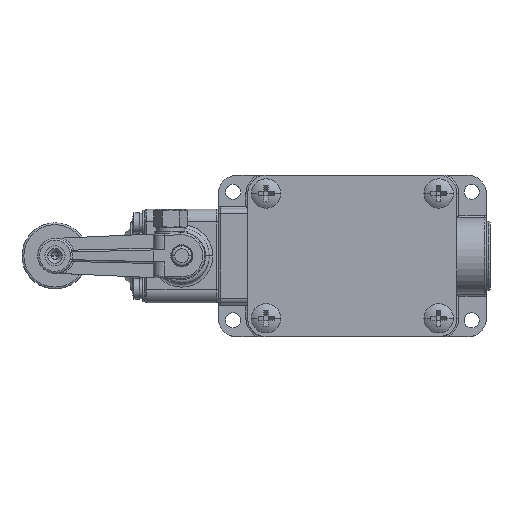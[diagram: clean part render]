
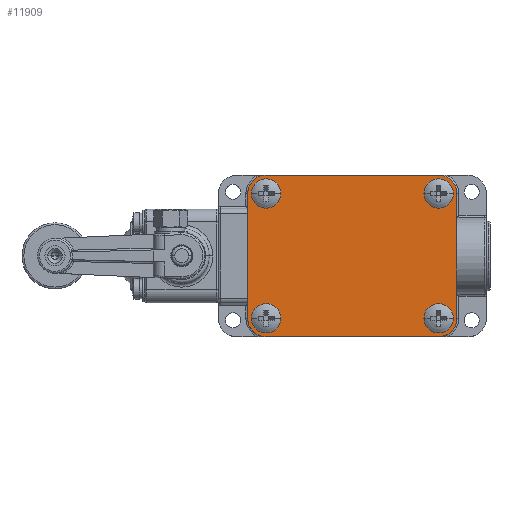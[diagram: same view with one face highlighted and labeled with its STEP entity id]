
A CAD part, top view. The second image highlights one B-rep face of the part: STEP entity #11909.
In plain terms, the highlighted planar face has unit normal (0, 0, 1).
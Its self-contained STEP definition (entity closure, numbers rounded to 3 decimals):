
#2839=DIRECTION('',(1.,0.,0.));
#2840=VECTOR('',#2839,47.);
#2841=CARTESIAN_POINT('',(-23.5,-22.,27.8));
#2842=LINE('',#2841,#2840);
#2863=CARTESIAN_POINT('',(-23.5,-17.,27.8));
#2864=DIRECTION('',(0.,0.,-1.));
#2865=DIRECTION('',(-1.,0.,0.));
#2866=AXIS2_PLACEMENT_3D('',#2863,#2864,#2865);
#2868=CARTESIAN_POINT('',(-23.5,-17.,27.8));
#2869=DIRECTION('',(0.,0.,-1.));
#2870=DIRECTION('',(1.,0.,0.));
#2871=AXIS2_PLACEMENT_3D('',#2868,#2869,#2870);
#2873=CARTESIAN_POINT('',(-23.5,17.,27.8));
#2874=DIRECTION('',(0.,0.,-1.));
#2875=DIRECTION('',(-1.,0.,0.));
#2876=AXIS2_PLACEMENT_3D('',#2873,#2874,#2875);
#2878=CARTESIAN_POINT('',(-23.5,17.,27.8));
#2879=DIRECTION('',(0.,0.,-1.));
#2880=DIRECTION('',(1.,0.,0.));
#2881=AXIS2_PLACEMENT_3D('',#2878,#2879,#2880);
#2883=CARTESIAN_POINT('',(23.5,-17.,27.8));
#2884=DIRECTION('',(0.,0.,-1.));
#2885=DIRECTION('',(-1.,0.,0.));
#2886=AXIS2_PLACEMENT_3D('',#2883,#2884,#2885);
#2888=CARTESIAN_POINT('',(23.5,-17.,27.8));
#2889=DIRECTION('',(0.,0.,-1.));
#2890=DIRECTION('',(1.,0.,0.));
#2891=AXIS2_PLACEMENT_3D('',#2888,#2889,#2890);
#2893=CARTESIAN_POINT('',(23.5,17.,27.8));
#2894=DIRECTION('',(0.,0.,-1.));
#2895=DIRECTION('',(-1.,0.,0.));
#2896=AXIS2_PLACEMENT_3D('',#2893,#2894,#2895);
#2898=CARTESIAN_POINT('',(23.5,17.,27.8));
#2899=DIRECTION('',(0.,0.,-1.));
#2900=DIRECTION('',(1.,0.,0.));
#2901=AXIS2_PLACEMENT_3D('',#2898,#2899,#2900);
#2903=CARTESIAN_POINT('',(23.5,-17.,27.8));
#2904=DIRECTION('',(0.,0.,1.));
#2905=DIRECTION('',(0.,-1.,0.));
#2906=AXIS2_PLACEMENT_3D('',#2903,#2904,#2905);
#2908=CARTESIAN_POINT('',(-23.5,-17.,27.8));
#2909=DIRECTION('',(0.,0.,1.));
#2910=DIRECTION('',(-1.,0.,0.));
#2911=AXIS2_PLACEMENT_3D('',#2908,#2909,#2910);
#2913=CARTESIAN_POINT('',(-23.5,17.,27.8));
#2914=DIRECTION('',(0.,0.,1.));
#2915=DIRECTION('',(0.,1.,0.));
#2916=AXIS2_PLACEMENT_3D('',#2913,#2914,#2915);
#2918=CARTESIAN_POINT('',(23.5,17.,27.8));
#2919=DIRECTION('',(0.,0.,1.));
#2920=DIRECTION('',(1.,0.,0.));
#2921=AXIS2_PLACEMENT_3D('',#2918,#2919,#2920);
#3699=DIRECTION('',(0.,1.,0.));
#3700=VECTOR('',#3699,34.);
#3701=CARTESIAN_POINT('',(28.5,-17.,27.8));
#3702=LINE('',#3701,#3700);
#3737=DIRECTION('',(-1.,0.,0.));
#3738=VECTOR('',#3737,47.);
#3739=CARTESIAN_POINT('',(23.5,22.,27.8));
#3740=LINE('',#3739,#3738);
#3766=DIRECTION('',(0.,-1.,0.));
#3767=VECTOR('',#3766,34.);
#3768=CARTESIAN_POINT('',(-28.5,17.,27.8));
#3769=LINE('',#3768,#3767);
#8411=CARTESIAN_POINT('',(-27.5,-17.,27.8));
#8412=CARTESIAN_POINT('',(-19.5,-17.,27.8));
#8413=VERTEX_POINT('',#8411);
#8414=VERTEX_POINT('',#8412);
#8447=CARTESIAN_POINT('',(-27.5,17.,27.8));
#8448=CARTESIAN_POINT('',(-19.5,17.,27.8));
#8449=VERTEX_POINT('',#8447);
#8450=VERTEX_POINT('',#8448);
#8483=CARTESIAN_POINT('',(19.5,-17.,27.8));
#8484=CARTESIAN_POINT('',(27.5,-17.,27.8));
#8485=VERTEX_POINT('',#8483);
#8486=VERTEX_POINT('',#8484);
#8519=CARTESIAN_POINT('',(19.5,17.,27.8));
#8520=CARTESIAN_POINT('',(27.5,17.,27.8));
#8521=VERTEX_POINT('',#8519);
#8522=VERTEX_POINT('',#8520);
#8875=CARTESIAN_POINT('',(23.5,-22.,27.8));
#8876=CARTESIAN_POINT('',(28.5,-17.,27.8));
#8877=VERTEX_POINT('',#8875);
#8878=VERTEX_POINT('',#8876);
#8879=CARTESIAN_POINT('',(28.5,17.,27.8));
#8880=CARTESIAN_POINT('',(23.5,22.,27.8));
#8881=VERTEX_POINT('',#8879);
#8882=VERTEX_POINT('',#8880);
#8883=CARTESIAN_POINT('',(-23.5,22.,27.8));
#8884=CARTESIAN_POINT('',(-28.5,17.,27.8));
#8885=VERTEX_POINT('',#8883);
#8886=VERTEX_POINT('',#8884);
#8887=CARTESIAN_POINT('',(-28.5,-17.,27.8));
#8888=CARTESIAN_POINT('',(-23.5,-22.,27.8));
#8889=VERTEX_POINT('',#8887);
#8890=VERTEX_POINT('',#8888);
#11863=CARTESIAN_POINT('',(0.,0.,27.8));
#11864=DIRECTION('',(0.,0.,-1.));
#11865=DIRECTION('',(0.,-1.,0.));
#11866=AXIS2_PLACEMENT_3D('',#11863,#11864,#11865);
#11867=PLANE('',#11866);
#11869=ORIENTED_EDGE('',*,*,#11868,.F.);
#11871=ORIENTED_EDGE('',*,*,#11870,.F.);
#11872=ORIENTED_EDGE('',*,*,#11713,.F.);
#11874=ORIENTED_EDGE('',*,*,#11873,.F.);
#11876=ORIENTED_EDGE('',*,*,#11875,.F.);
#11878=ORIENTED_EDGE('',*,*,#11877,.F.);
#11880=ORIENTED_EDGE('',*,*,#11879,.F.);
#11882=ORIENTED_EDGE('',*,*,#11881,.F.);
#11883=EDGE_LOOP('',(#11869,#11871,#11872,#11874,#11876,#11878,#11880,#11882));
#11884=FACE_OUTER_BOUND('',#11883,.F.);
#11886=ORIENTED_EDGE('',*,*,#11885,.F.);
#11888=ORIENTED_EDGE('',*,*,#11887,.F.);
#11889=EDGE_LOOP('',(#11886,#11888));
#11890=FACE_BOUND('',#11889,.F.);
#11892=ORIENTED_EDGE('',*,*,#11891,.F.);
#11894=ORIENTED_EDGE('',*,*,#11893,.F.);
#11895=EDGE_LOOP('',(#11892,#11894));
#11896=FACE_BOUND('',#11895,.F.);
#11898=ORIENTED_EDGE('',*,*,#11897,.F.);
#11900=ORIENTED_EDGE('',*,*,#11899,.F.);
#11901=EDGE_LOOP('',(#11898,#11900));
#11902=FACE_BOUND('',#11901,.F.);
#11904=ORIENTED_EDGE('',*,*,#11903,.F.);
#11906=ORIENTED_EDGE('',*,*,#11905,.F.);
#11907=EDGE_LOOP('',(#11904,#11906));
#11908=FACE_BOUND('',#11907,.F.);
#11909=ADVANCED_FACE('',(#11884,#11890,#11896,#11902,#11908),#11867,.F.);
#2867=CIRCLE('',#2866,4.);
#2872=CIRCLE('',#2871,4.);
#2877=CIRCLE('',#2876,4.);
#2882=CIRCLE('',#2881,4.);
#2887=CIRCLE('',#2886,4.);
#2892=CIRCLE('',#2891,4.);
#2897=CIRCLE('',#2896,4.);
#2902=CIRCLE('',#2901,4.);
#2907=CIRCLE('',#2906,5.);
#2912=CIRCLE('',#2911,5.);
#2917=CIRCLE('',#2916,5.);
#2922=CIRCLE('',#2921,5.);
#11713=EDGE_CURVE('',#8890,#8877,#2842,.T.);
#11868=EDGE_CURVE('',#8878,#8881,#3702,.T.);
#11870=EDGE_CURVE('',#8877,#8878,#2907,.T.);
#11873=EDGE_CURVE('',#8889,#8890,#2912,.T.);
#11875=EDGE_CURVE('',#8886,#8889,#3769,.T.);
#11877=EDGE_CURVE('',#8885,#8886,#2917,.T.);
#11879=EDGE_CURVE('',#8882,#8885,#3740,.T.);
#11881=EDGE_CURVE('',#8881,#8882,#2922,.T.);
#11885=EDGE_CURVE('',#8413,#8414,#2867,.T.);
#11887=EDGE_CURVE('',#8414,#8413,#2872,.T.);
#11891=EDGE_CURVE('',#8449,#8450,#2877,.T.);
#11893=EDGE_CURVE('',#8450,#8449,#2882,.T.);
#11897=EDGE_CURVE('',#8485,#8486,#2887,.T.);
#11899=EDGE_CURVE('',#8486,#8485,#2892,.T.);
#11903=EDGE_CURVE('',#8521,#8522,#2897,.T.);
#11905=EDGE_CURVE('',#8522,#8521,#2902,.T.);
